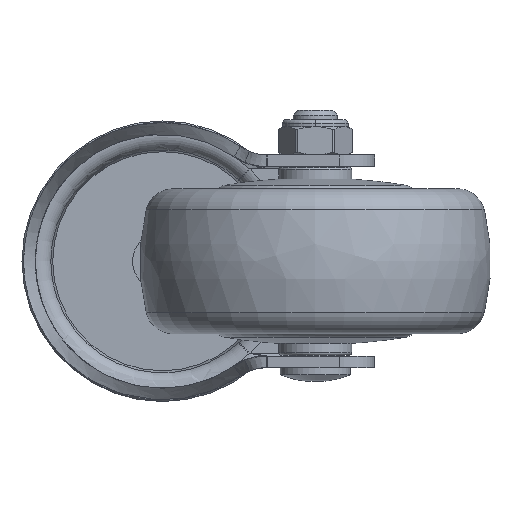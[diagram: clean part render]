
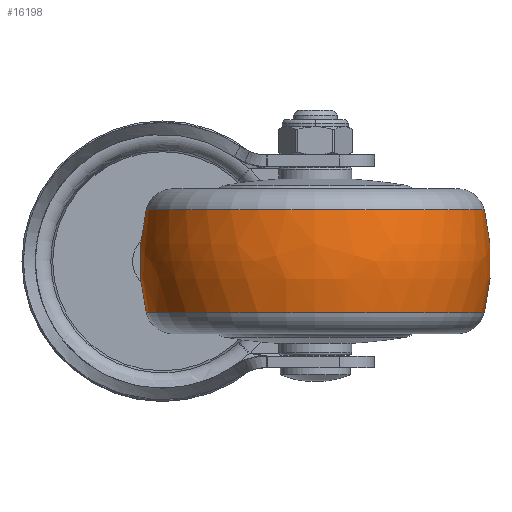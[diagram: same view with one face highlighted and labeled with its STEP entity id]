
A CAD part, front view. The second image highlights one B-rep face of the part: STEP entity #16198.
In plain terms, the highlighted free-form (B-spline) face has degree [3, 3] with [7, 4] control points.
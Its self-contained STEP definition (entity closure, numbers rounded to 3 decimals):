
#15507=CARTESIAN_POINT('',(-10.962,0.,0.));
#15508=DIRECTION('',(-1.,0.,0.));
#15509=DIRECTION('',(0.,1.,0.));
#15510=AXIS2_PLACEMENT_3D('',#15507,#15508,#15509);
#15522=CARTESIAN_POINT('',(0.,-7.5,0.));
#15523=DIRECTION('',(0.,0.,1.));
#15524=DIRECTION('',(0.244,0.97,0.));
#15525=AXIS2_PLACEMENT_3D('',#15522,#15523,#15524);
#15527=CARTESIAN_POINT('',(0.,7.5,0.));
#15528=DIRECTION('',(0.,0.,-1.));
#15529=DIRECTION('',(0.244,-0.97,0.));
#15530=AXIS2_PLACEMENT_3D('',#15527,#15528,#15529);
#15532=CARTESIAN_POINT('',(10.962,0.,0.));
#15533=DIRECTION('',(-1.,0.,0.));
#15534=DIRECTION('',(0.,1.,0.));
#15535=AXIS2_PLACEMENT_3D('',#15532,#15533,#15534);
#15772=CARTESIAN_POINT('',(10.962,36.145,0.));
#15774=VERTEX_POINT('',#15772);
#15775=CARTESIAN_POINT('',(-10.962,36.145,0.));
#15776=VERTEX_POINT('',#15775);
#15820=CARTESIAN_POINT('',(10.962,-36.145,0.));
#15822=VERTEX_POINT('',#15820);
#15823=CARTESIAN_POINT('',(-10.962,-36.145,0.));
#15824=VERTEX_POINT('',#15823);
#16162=CARTESIAN_POINT('',(-11.391,-35.963,
2.263));
#16163=CARTESIAN_POINT('',(-3.881,-37.924,
2.386));
#16164=CARTESIAN_POINT('',(3.881,-37.924,
2.386));
#16165=CARTESIAN_POINT('',(11.391,-35.963,
2.263));
#16166=CARTESIAN_POINT('',(-11.391,-37.356,
-19.869));
#16167=CARTESIAN_POINT('',(-3.881,-39.393,
-20.953));
#16168=CARTESIAN_POINT('',(3.881,-39.393,
-20.953));
#16169=CARTESIAN_POINT('',(11.391,-37.356,
-19.869));
#16170=CARTESIAN_POINT('',(-11.391,-22.176,
-36.035));
#16171=CARTESIAN_POINT('',(-3.881,-23.385,
-37.999));
#16172=CARTESIAN_POINT('',(3.881,-23.385,
-37.999));
#16173=CARTESIAN_POINT('',(11.391,-22.176,
-36.035));
#16174=CARTESIAN_POINT('',(-11.391,0.,-36.035));
#16175=CARTESIAN_POINT('',(-3.881,0.,-37.999));
#16176=CARTESIAN_POINT('',(3.881,0.,-37.999));
#16177=CARTESIAN_POINT('',(11.391,0.,-36.035));
#16178=CARTESIAN_POINT('',(-11.391,22.176,
-36.035));
#16179=CARTESIAN_POINT('',(-3.881,23.385,
-37.999));
#16180=CARTESIAN_POINT('',(3.881,23.385,
-37.999));
#16181=CARTESIAN_POINT('',(11.391,22.176,
-36.035));
#16182=CARTESIAN_POINT('',(-11.391,37.356,
-19.869));
#16183=CARTESIAN_POINT('',(-3.881,39.393,
-20.953));
#16184=CARTESIAN_POINT('',(3.881,39.393,
-20.953));
#16185=CARTESIAN_POINT('',(11.391,37.356,
-19.869));
#16186=CARTESIAN_POINT('',(-11.391,35.963,
2.263));
#16187=CARTESIAN_POINT('',(-3.881,37.924,
2.386));
#16188=CARTESIAN_POINT('',(3.881,37.924,2.386));
#16189=CARTESIAN_POINT('',(11.391,35.963,2.263));
#16190=(BOUNDED_SURFACE()B_SPLINE_SURFACE(3,3,((#16162,#16163,#16164,#16165),(
#16166,#16167,#16168,#16169),(#16170,#16171,#16172,#16173),(#16174,#16175,
#16176,#16177),(#16178,#16179,#16180,#16181),(#16182,#16183,#16184,#16185),(
#16186,#16187,#16188,#16189)),.UNSPECIFIED.,.F.,.F.,.F.)B_SPLINE_SURFACE_WITH_KNOTS((4,3,4),(4,4),(0.,1.,2.),(0.,1.),.UNSPECIFIED.)GEOMETRIC_REPRESENTATION_ITEM()RATIONAL_B_SPLINE_SURFACE(((1.207,1.181,
1.181,1.207),(0.953,0.932,
0.932,0.953),(0.953,0.932,
0.932,0.953),(1.207,1.181,
1.181,1.207),(0.953,0.932,
0.932,0.953),(0.953,0.932,
0.932,0.953),(1.207,1.181,
1.181,1.207)))REPRESENTATION_ITEM('')SURFACE());
#16191=ORIENTED_EDGE('',*,*,#16152,.T.);
#16192=ORIENTED_EDGE('',*,*,#16105,.T.);
#16193=ORIENTED_EDGE('',*,*,#16156,.F.);
#16195=ORIENTED_EDGE('',*,*,#16194,.F.);
#16196=EDGE_LOOP('',(#16191,#16192,#16193,#16195));
#16197=FACE_OUTER_BOUND('',#16196,.F.);
#15511=CIRCLE('',#15510,36.145);
#15526=CIRCLE('',#15525,45.);
#15531=CIRCLE('',#15530,45.);
#15536=CIRCLE('',#15535,36.145);
#16105=EDGE_CURVE('',#15776,#15824,#15511,.T.);
#16152=EDGE_CURVE('',#15774,#15776,#15526,.T.);
#16156=EDGE_CURVE('',#15822,#15824,#15531,.T.);
#16194=EDGE_CURVE('',#15774,#15822,#15536,.T.);
#16198=ADVANCED_FACE('',(#16197),#16190,.T.);
